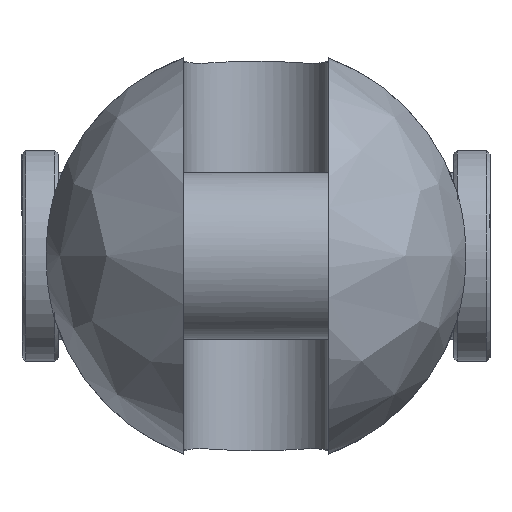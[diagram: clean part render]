
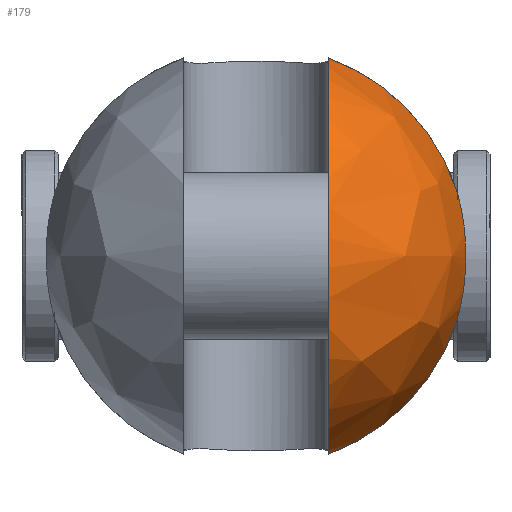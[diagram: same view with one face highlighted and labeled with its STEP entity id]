
A CAD part, left-side view. The second image highlights one B-rep face of the part: STEP entity #179.
In plain terms, the highlighted free-form (B-spline) face has degree [2, 2] with [9, 5] control points.
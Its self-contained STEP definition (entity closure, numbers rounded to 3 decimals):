
#179=ADVANCED_FACE('',(#320),#2412,.T.);
#320=FACE_OUTER_BOUND('',#481,.T.);
#481=EDGE_LOOP('',(#1192,#1193,#1194,#1195));
#1192=ORIENTED_EDGE('',*,*,#1576,.T.);
#1193=ORIENTED_EDGE('',*,*,#1598,.F.);
#1194=ORIENTED_EDGE('',*,*,#1608,.T.);
#1195=ORIENTED_EDGE('',*,*,#1592,.F.);
#1576=EDGE_CURVE('',#2244,#2243,#1979,.T.);
#1592=EDGE_CURVE('',#2244,#2256,#1989,.T.);
#1598=EDGE_CURVE('',#2263,#2243,#1990,.T.);
#1608=EDGE_CURVE('',#2263,#2256,#1782,.T.);
#1782=B_SPLINE_CURVE_WITH_KNOTS('',3,(#6030,#6031,#6032,#6033,#6034,#6035,
#6036,#6037,#6038,#6039,#6040,#6041,#6042,#6043),.UNSPECIFIED.,.F.,.F.,
(4,2,2,2,2,2,4),(0.,2.032,5.991,9.951,13.91,
17.869,19.901),.UNSPECIFIED.);
#1979=(
BOUNDED_CURVE()
B_SPLINE_CURVE(2,(#5878,#5879,#5880,#5881,#5882),.UNSPECIFIED.,.F.,.F.)
B_SPLINE_CURVE_WITH_KNOTS((3,2,3),(-85.518,-42.759,
0.),.UNSPECIFIED.)
CURVE()
GEOMETRIC_REPRESENTATION_ITEM()
RATIONAL_B_SPLINE_CURVE((1.,0.707,1.,0.707,1.))
REPRESENTATION_ITEM('')
);
#1989=(
BOUNDED_CURVE()
B_SPLINE_CURVE(2,(#5956,#5957,#5958),.UNSPECIFIED.,.F.,.F.)
B_SPLINE_CURVE_WITH_KNOTS((3,3),(0.,26.018),.UNSPECIFIED.)
CURVE()
GEOMETRIC_REPRESENTATION_ITEM()
RATIONAL_B_SPLINE_CURVE((1.,0.901,1.))
REPRESENTATION_ITEM('')
);
#1990=(
BOUNDED_CURVE()
B_SPLINE_CURVE(2,(#5985,#5986,#5987),.UNSPECIFIED.,.F.,.F.)
B_SPLINE_CURVE_WITH_KNOTS((3,3),(0.,26.018),.UNSPECIFIED.)
CURVE()
GEOMETRIC_REPRESENTATION_ITEM()
RATIONAL_B_SPLINE_CURVE((1.,0.901,1.))
REPRESENTATION_ITEM('')
);
#2243=VERTEX_POINT('',#5746);
#2244=VERTEX_POINT('',#5747);
#2256=VERTEX_POINT('',#5759);
#2263=VERTEX_POINT('',#5766);
#2412=(
BOUNDED_SURFACE()
B_SPLINE_SURFACE(2,2,((#5460,#5461,#5462,#5463,#5464),(#5465,#5466,#5467,
#5468,#5469),(#5470,#5471,#5472,#5473,#5474),(#5475,#5476,#5477,#5478,#5479),
(#5480,#5481,#5482,#5483,#5484),(#5485,#5486,#5487,#5488,#5489),(#5490,
#5491,#5492,#5493,#5494),(#5495,#5496,#5497,#5498,#5499),(#5500,#5501,#5502,
#5503,#5504)),.UNSPECIFIED.,.T.,.F.,.F.)
B_SPLINE_SURFACE_WITH_KNOTS((3,2,2,2,3),(3,2,3),(0.,45.553,91.106,
136.659,182.212),(0.,45.553,91.106),
 .UNSPECIFIED.)
GEOMETRIC_REPRESENTATION_ITEM()
RATIONAL_B_SPLINE_SURFACE(((1.,0.707,1.,0.707,1.),
(0.707,0.5,0.707,0.5,0.707),(1.,0.707,
1.,0.707,1.),(0.707,0.5,0.707,0.5,0.707),
(1.,0.707,1.,0.707,1.),(0.707,0.5,0.707,
0.5,0.707),(1.,0.707,1.,0.707,1.),(0.707,
0.5,0.707,0.5,0.707),(1.,0.707,1.,0.707,
1.)))
REPRESENTATION_ITEM('')
SURFACE()
);
#5460=CARTESIAN_POINT('',(-41.5,0.,0.));
#5461=CARTESIAN_POINT('',(-41.5,29.,0.));
#5462=CARTESIAN_POINT('',(-12.5,29.,0.));
#5463=CARTESIAN_POINT('',(16.5,29.,0.));
#5464=CARTESIAN_POINT('',(16.5,0.,0.));
#5465=CARTESIAN_POINT('',(-41.5,0.,0.));
#5466=CARTESIAN_POINT('',(-41.5,29.,29.));
#5467=CARTESIAN_POINT('',(-12.5,29.,29.));
#5468=CARTESIAN_POINT('',(16.5,29.,29.));
#5469=CARTESIAN_POINT('',(16.5,0.,0.));
#5470=CARTESIAN_POINT('',(-41.5,0.,0.));
#5471=CARTESIAN_POINT('',(-41.5,0.,29.));
#5472=CARTESIAN_POINT('',(-12.5,0.,29.));
#5473=CARTESIAN_POINT('',(16.5,0.,29.));
#5474=CARTESIAN_POINT('',(16.5,0.,0.));
#5475=CARTESIAN_POINT('',(-41.5,0.,0.));
#5476=CARTESIAN_POINT('',(-41.5,-29.,29.));
#5477=CARTESIAN_POINT('',(-12.5,-29.,29.));
#5478=CARTESIAN_POINT('',(16.5,-29.,29.));
#5479=CARTESIAN_POINT('',(16.5,0.,0.));
#5480=CARTESIAN_POINT('',(-41.5,0.,0.));
#5481=CARTESIAN_POINT('',(-41.5,-29.,0.));
#5482=CARTESIAN_POINT('',(-12.5,-29.,0.));
#5483=CARTESIAN_POINT('',(16.5,-29.,0.));
#5484=CARTESIAN_POINT('',(16.5,0.,0.));
#5485=CARTESIAN_POINT('',(-41.5,0.,0.));
#5486=CARTESIAN_POINT('',(-41.5,-29.,-29.));
#5487=CARTESIAN_POINT('',(-12.5,-29.,-29.));
#5488=CARTESIAN_POINT('',(16.5,-29.,-29.));
#5489=CARTESIAN_POINT('',(16.5,0.,0.));
#5490=CARTESIAN_POINT('',(-41.5,0.,0.));
#5491=CARTESIAN_POINT('',(-41.5,0.,-29.));
#5492=CARTESIAN_POINT('',(-12.5,0.,-29.));
#5493=CARTESIAN_POINT('',(16.5,0.,-29.));
#5494=CARTESIAN_POINT('',(16.5,0.,0.));
#5495=CARTESIAN_POINT('',(-41.5,0.,0.));
#5496=CARTESIAN_POINT('',(-41.5,29.,-29.));
#5497=CARTESIAN_POINT('',(-12.5,29.,-29.));
#5498=CARTESIAN_POINT('',(16.5,29.,-29.));
#5499=CARTESIAN_POINT('',(16.5,0.,0.));
#5500=CARTESIAN_POINT('',(-41.5,0.,0.));
#5501=CARTESIAN_POINT('',(-41.5,29.,0.));
#5502=CARTESIAN_POINT('',(-12.5,29.,0.));
#5503=CARTESIAN_POINT('',(16.5,29.,0.));
#5504=CARTESIAN_POINT('',(16.5,0.,0.));
#5746=CARTESIAN_POINT('',(-12.5,-10.,-27.221));
#5747=CARTESIAN_POINT('',(-12.5,-10.,27.221));
#5759=CARTESIAN_POINT('',(-12.5,-27.514,9.165));
#5766=CARTESIAN_POINT('',(-12.5,-27.514,-9.165));
#5878=CARTESIAN_POINT('',(-12.5,-10.,27.221));
#5879=CARTESIAN_POINT('',(-39.721,-10.,27.221));
#5880=CARTESIAN_POINT('',(-39.721,-10.,0.));
#5881=CARTESIAN_POINT('',(-39.721,-10.,-27.221));
#5882=CARTESIAN_POINT('',(-12.5,-10.,-27.221));
#5956=CARTESIAN_POINT('',(-12.5,-10.,27.221));
#5957=CARTESIAN_POINT('',(-12.5,-23.102,22.408));
#5958=CARTESIAN_POINT('',(-12.5,-27.514,9.165));
#5985=CARTESIAN_POINT('',(-12.5,-27.514,-9.165));
#5986=CARTESIAN_POINT('',(-12.5,-23.102,-22.408));
#5987=CARTESIAN_POINT('',(-12.5,-10.,-27.221));
#6030=CARTESIAN_POINT('',(-12.5,-27.514,-9.165));
#6031=CARTESIAN_POINT('',(-12.889,-27.69,-8.634));
#6032=CARTESIAN_POINT('',(-13.239,-27.848,-8.085));
#6033=CARTESIAN_POINT('',(-14.14,-28.25,-6.466));
#6034=CARTESIAN_POINT('',(-14.658,-28.477,-5.217));
#6035=CARTESIAN_POINT('',(-15.338,-28.774,-2.611));
#6036=CARTESIAN_POINT('',(-15.5,-28.844,-1.253));
#6037=CARTESIAN_POINT('',(-15.5,-28.844,1.253));
#6038=CARTESIAN_POINT('',(-15.338,-28.774,2.611));
#6039=CARTESIAN_POINT('',(-14.658,-28.477,5.217));
#6040=CARTESIAN_POINT('',(-14.14,-28.25,6.466));
#6041=CARTESIAN_POINT('',(-13.239,-27.848,8.085));
#6042=CARTESIAN_POINT('',(-12.889,-27.69,8.634));
#6043=CARTESIAN_POINT('',(-12.5,-27.514,9.165));
